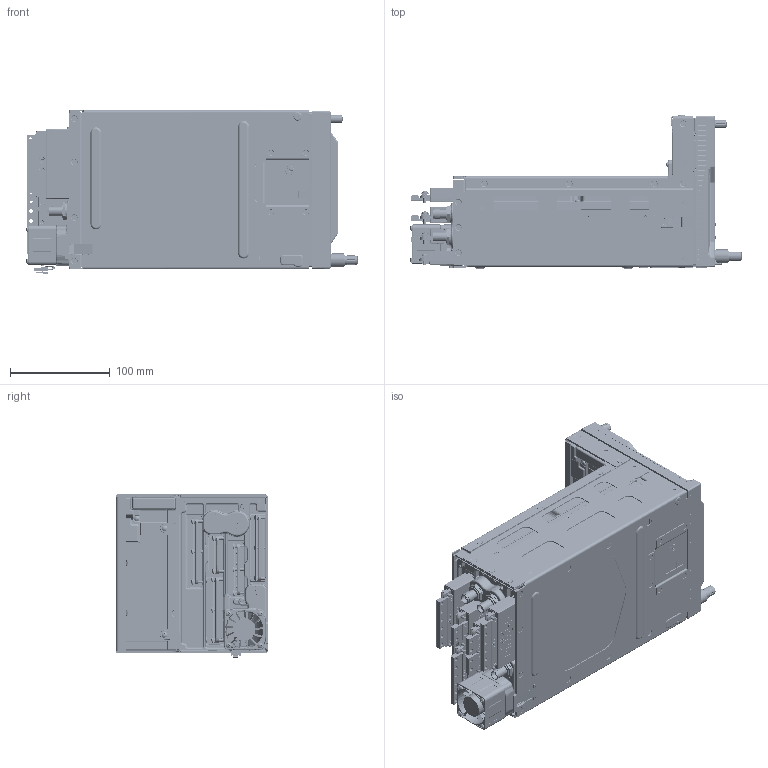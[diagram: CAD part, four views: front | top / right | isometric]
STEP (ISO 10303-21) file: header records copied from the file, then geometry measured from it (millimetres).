
FILE_DESCRIPTION (( 'STEP AP203' ), '1' );
FILE_NAME ('GTN750Xi_011-04634-(00,60)_R[115-01294-00]_B[011-02246-02]_C[011-02326-02]_rev2.STEP', '2020-05-06T19:13:29', ( '' ), ( '' ), 'SwSTEP 2.0', 'SolidWorks 2019', '' );
FILE_SCHEMA (( 'CONFIG_CONTROL_DESIGN' ));
Length unit declared in the file: millimetre
Products named in the file (1): GTN750Xi_011-04634-(00,60)_R[115-01294-00]_B[011-02246-02]_C[011-02326-02]_rev2
Bounding box: 333.46 x 153.67 x 164.43 mm (x, y, z)
Volume: 3943176.7 mm3; surface area: 527237 mm2
Topology: 8 solids, 89 shells, 15449 faces, 38784 edges, 25025 vertices
Faces by surface type: plane 7571, bspline 3554, cylinder 2995, cone 718, torus 491, sphere 120
Full cylindrical faces by diameter (mm): 0.73 x44, 0.762 x156, 1.397 x278, 1.52 x3, 1.524 x78, 1.6 x1, 1.702 x6, 2.007 x5, 2.032 x4, 2.184 x2, 2.261 x23, 2.358 x1, 2.527 x2, 2.54 x2, 2.705 x1, 2.845 x89, 2.921 x1, 2.972 x7, 3.048 x8, 3.05 x2, 3.251 x1, 3.264 x29, 3.302 x16, 3.454 x24, 3.5 x4, 3.81 x3, 4.15 x6, 4.318 x1, 4.572 x3, 4.699 x3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
Entity records: 641464 total; most frequent: CARTESIAN_POINT 307121, ORIENTED_EDGE 73214, DIRECTION 58392, EDGE_CURVE 36607, VERTEX_POINT 24333, AXIS2_PLACEMENT_3D 19579, VECTOR 19234, LINE 19234
